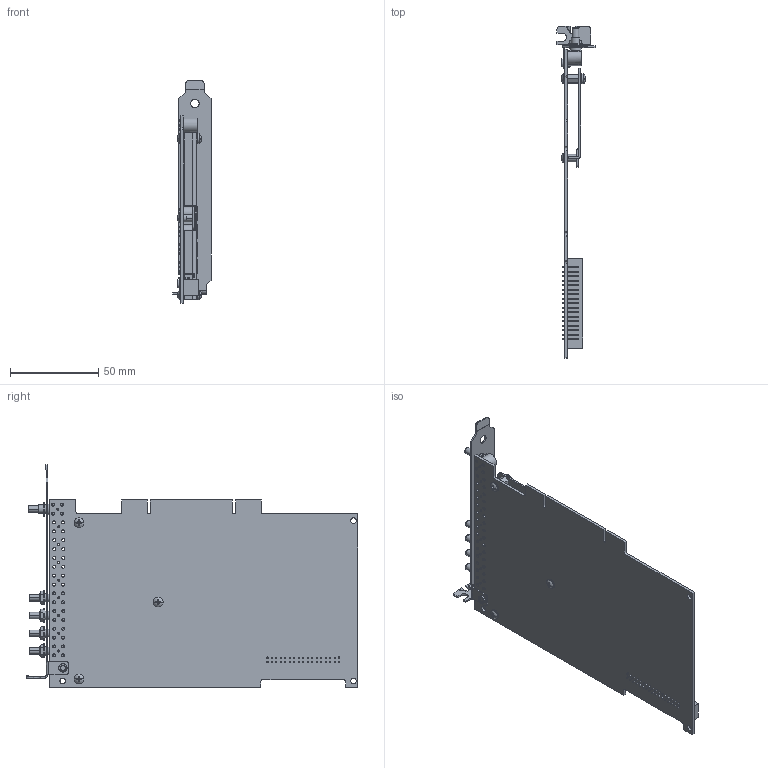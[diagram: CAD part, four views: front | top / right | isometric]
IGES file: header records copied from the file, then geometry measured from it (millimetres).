
Start section:  PTC IGES file: cu_pci-4474.igs
Global section: file name: cu_pci-4474.igs; native system: Pro/ENGINEER by Parametric Technology Corporation; preprocessor: 2010230; author: dkendric; organization: Unknown; date: 20110822.133131; units: inch
Bounding box: 21.59 x 187.91 x 126.22 mm (x, y, z)
Surface area: 58686.6 mm2 (no closed solid volume)
Topology: 0 solids, 0 shells, 1531 faces, 8038 edges, 7918 vertices
Faces by surface type: bspline 1119, revolution 412
